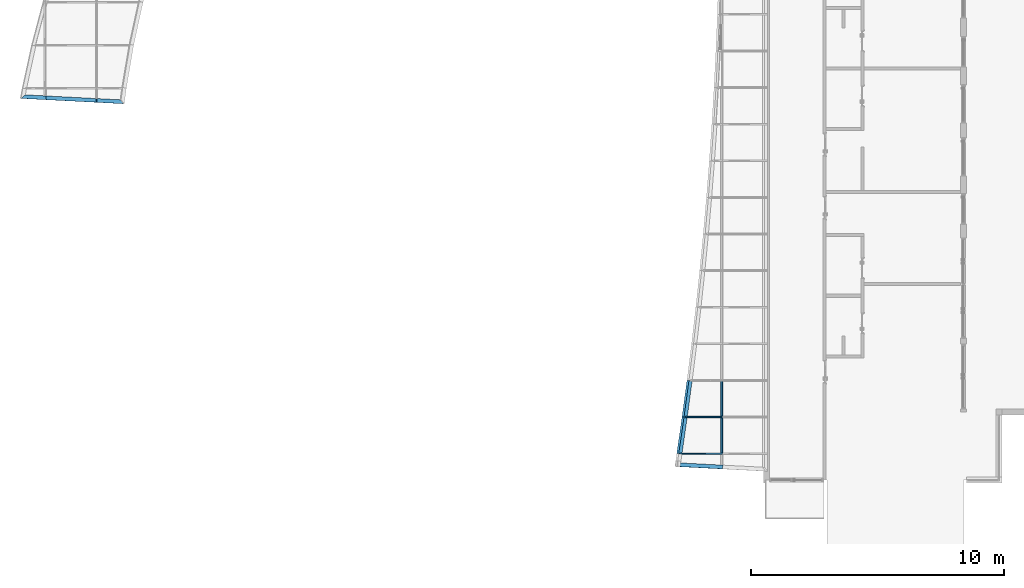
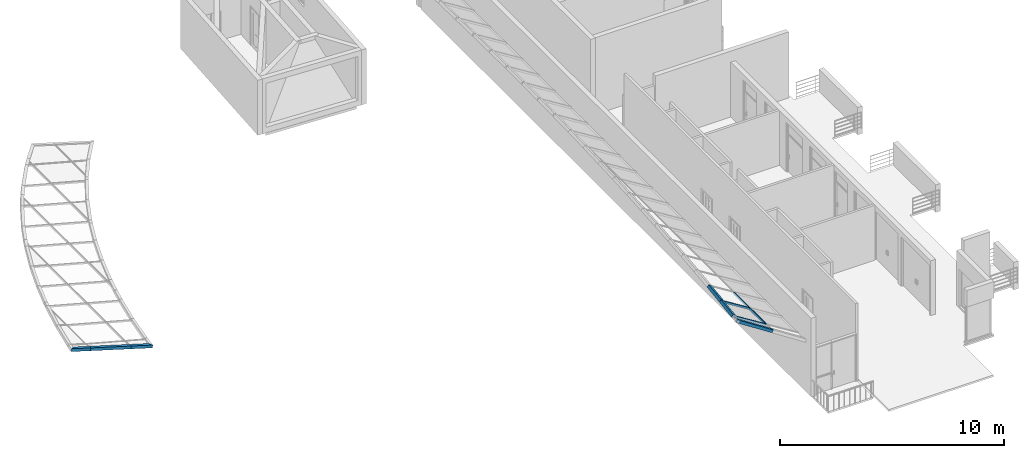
# One storey, part 1 of 33: 10 members, 2 elements without a shape of their own.
"""IFC2X3 building model written with IfcOpenShell, lengths in millimetres."""

from ifc_helpers import new_model, entity, si_unit, converted_unit, derived_unit, direction, frame, frame_2d, origin, origin_2d_with_axis, place, context, subcontext, project, spatial, polyline, rectangle, extrude, clip, halfspace, bounded_halfspace, source, transform, mapped, material, type_object, type_shapes, element, aggregate, save


model = new_model("IFC2X3")

# Units and contexts
model_context = context("Model", 3, precision=0.01, world=origin(), true_north=direction((6.12303176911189e-17, 1.0)))
body_context = subcontext(model_context, "Body", "Model", "MODEL_VIEW")
ifc_project = project(units=[si_unit("LENGTHUNIT", "METRE", prefix="MILLI"), si_unit("AREAUNIT", "SQUARE_METRE"), si_unit("VOLUMEUNIT", "CUBIC_METRE"), converted_unit("PLANEANGLEUNIT", "DEGREE", entity("IfcRatioMeasure", 0.0174532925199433), si_unit("PLANEANGLEUNIT", "RADIAN"), dimensions=[0, 0, 0, 0, 0, 0, 0]), si_unit("MASSUNIT", "GRAM", prefix="KILO"), derived_unit("MASSDENSITYUNIT", [(si_unit("MASSUNIT", "GRAM", prefix="KILO"), 1), (si_unit("LENGTHUNIT", "METRE"), -3)]), si_unit("TIMEUNIT", "SECOND"), si_unit("FREQUENCYUNIT", "HERTZ"), si_unit("THERMODYNAMICTEMPERATUREUNIT", "DEGREE_CELSIUS"), derived_unit("THERMALTRANSMITTANCEUNIT", [(si_unit("MASSUNIT", "GRAM", prefix="KILO"), 1), (si_unit("THERMODYNAMICTEMPERATUREUNIT", "KELVIN"), -1), (si_unit("TIMEUNIT", "SECOND"), -3)]), derived_unit("VOLUMETRICFLOWRATEUNIT", [(si_unit("LENGTHUNIT", "METRE"), 3), (si_unit("TIMEUNIT", "SECOND"), -1)]), si_unit("ELECTRICCURRENTUNIT", "AMPERE"), si_unit("ELECTRICVOLTAGEUNIT", "VOLT"), si_unit("POWERUNIT", "WATT"), si_unit("FORCEUNIT", "NEWTON", prefix="KILO"), si_unit("ILLUMINANCEUNIT", "LUX"), si_unit("LUMINOUSFLUXUNIT", "LUMEN"), si_unit("LUMINOUSINTENSITYUNIT", "CANDELA"), derived_unit("USERDEFINED", [(si_unit("MASSUNIT", "GRAM", prefix="KILO"), -1), (si_unit("LENGTHUNIT", "METRE"), -2), (si_unit("TIMEUNIT", "SECOND"), 3), (si_unit("LUMINOUSFLUXUNIT", "LUMEN"), 1)]), derived_unit("LINEARVELOCITYUNIT", [(si_unit("LENGTHUNIT", "METRE"), 1), (si_unit("TIMEUNIT", "SECOND"), -1)]), si_unit("PRESSUREUNIT", "PASCAL"), derived_unit("USERDEFINED", [(si_unit("LENGTHUNIT", "METRE"), -2), (si_unit("MASSUNIT", "GRAM", prefix="KILO"), 1), (si_unit("TIMEUNIT", "SECOND"), -2)])], contexts=[model_context])

# Site, building, storey
site_placement = place(None, origin())
site = spatial("IfcSite", under=ifc_project, at=site_placement, Name="表面", CompositionType="ELEMENT")
building_placement = place(site_placement, origin())
building = spatial("IfcBuilding", under=site, at=building_placement, CompositionType="ELEMENT")
storey_placement = place(building_placement, frame((0.0, 0.0, 6000.0)))
storey = spatial("IfcBuildingStorey", under=building, at=storey_placement, Name="3F", CompositionType="ELEMENT", Elevation=6000.00000000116)

# Curtain wall, members
curtain_wall_type_1 = type_object("IfcCurtainWallType", Name="幕墙系统:1450 x 2100mm", PredefinedType="NOTDEFINED")
curtain_wall_1_placement = place(storey_placement, frame((0.0, 0.0, -6000.0)))
curtain_wall_1 = element("IfcCurtainWall", 1, at=curtain_wall_1_placement, inside=storey, type_object=curtain_wall_type_1, Name="幕墙系统:1450 x 2100mm", ObjectType="幕墙系统:1450 x 2100mm")
ifc_material_1 = material(Name="金属 - 铝")
member_type_1 = type_object("IfcMemberType", Name="50 x 100mm", PredefinedType="MEMBER")
shared_shape_1 = source(origin(), body_context, "Body", "SweptSolid", [
    extrude(rectangle(XDim=100.0, YDim=50.0, at=origin_2d_with_axis()), frame((0.0, 0.0, -1400.0), z_axis=(0.0, 0.0, 1.0), x_axis=(0.0, -1.0, 0.0)), (0.0, 0.0, 1.0), 1400.0),
])
type_shapes(member_type_1, [shared_shape_1])
placement = place(building_placement, frame((0.0, 0.0, 9000.0)))
member_1_placement = place(placement, frame((-16211.1509145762, -25495.8979069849, 826.048296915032), z_axis=(0.0, 1.0, 0.0), x_axis=(-0.848048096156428, 0.0, 0.529919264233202)))
member_1 = element("IfcMember", 2, at=member_1_placement, type_object=member_type_1, material=ifc_material_1, Name="矩形竖梃:50 x 100mm", ObjectType="50 x 100mm", context=body_context, shape_type="MappedRepresentation", body=[
    mapped(shared_shape_1, transform((0.0, 0.0, 0.0), scale=1.0)),
])
member_2_placement = place(placement, frame((-16211.1509145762, -26945.8979069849, 826.048296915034), z_axis=(0.0, 1.0, 0.0), x_axis=(-0.848048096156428, 0.0, 0.529919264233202)))
member_2 = element("IfcMember", 3, at=member_2_placement, type_object=member_type_1, material=ifc_material_1, Name="矩形竖梃:50 x 100mm", ObjectType="50 x 100mm", context=body_context, shape_type="MappedRepresentation", body=[
    mapped(shared_shape_1, transform((0.0, 0.0, 0.0), scale=1.0)),
])

curtain_wall_type_2 = type_object("IfcCurtainWallType", Name="幕墙系统:1700 x 2100mm", PredefinedType="NOTDEFINED")
curtain_wall_2_placement = place(storey_placement, frame((0.0, 0.0, -6000.0)))
curtain_wall_2 = element("IfcCurtainWall", 4, at=curtain_wall_2_placement, inside=storey, type_object=curtain_wall_type_2, Name="幕墙系统:1700 x 2100mm", ObjectType="幕墙系统:1700 x 2100mm")
ifc_material_2 = material(Name="木质 - 木材")
member_type_2 = type_object("IfcMemberType", Name="200 x 150mm", PredefinedType="MEMBER")
shared_shape_2 = source(origin(), body_context, "Body", "Clipping", [
    clip(extrude(rectangle(XDim=150.0, YDim=150.0, at=origin_2d_with_axis()), frame((-75.0, 0.0, -1018.00402169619), z_axis=(0.0, 0.0, 1.0), x_axis=(0.0, -1.0, 0.0)), (0.0, 0.0, 1.0), 1018.00402169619), halfspace(frame((0.0, -304.8, 0.0), z_axis=(-0.755376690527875, 0.0, 0.655290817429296), x_axis=(-0.655290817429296, 0.0, -0.755376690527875)), False)),
])
type_shapes(member_type_2, [shared_shape_2])
member_3_placement = place(placement, frame((-43977.9506808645, -14300.2240793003, 619.683146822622), z_axis=(-0.964690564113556, 0.0505572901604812, 0.25848805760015), x_axis=(-0.0488345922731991, -0.99872116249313, 0.0130851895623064)))
member_3 = element("IfcMember", 5, at=member_3_placement, type_object=member_type_2, material=ifc_material_2, Name="矩形竖梃:200 x 150mm", ObjectType="200 x 150mm", context=body_context, shape_type="MappedRepresentation", body=[
    mapped(shared_shape_2, transform((0.0, 0.0, 0.0), scale=1.0)),
])
member_type_3 = type_object("IfcMemberType", Name="200 x 150mm", PredefinedType="MEMBER")
shared_shape_3 = source(origin(), body_context, "Body", "Clipping", [
    clip(extrude(rectangle(XDim=150.0, YDim=150.0, at=origin_2d_with_axis()), frame((-75.0, 0.0, -1117.98957868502), z_axis=(0.0, 0.0, 1.0), x_axis=(0.0, -1.0, 0.0)), (0.0, 0.0, 1.0), 1117.98957868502), halfspace(frame((0.0, -304.8, -1117.98957868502), z_axis=(-0.674165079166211, 0.0, -0.738580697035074), x_axis=(-0.738580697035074, 0.0, 0.674165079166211)), False)),
])
type_shapes(member_type_3, [shared_shape_3])
member_4_placement = place(storey_placement, frame((-40967.4475716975, -14457.9978617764, 2813.02126990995), z_axis=(-0.964690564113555, 0.0505572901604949, 0.258488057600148), x_axis=(-0.0488345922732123, -0.998721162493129, 0.0130851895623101)))
member_4 = element("IfcMember", 6, at=member_4_placement, type_object=member_type_3, material=ifc_material_2, Name="矩形竖梃:200 x 150mm", ObjectType="200 x 150mm", context=body_context, shape_type="MappedRepresentation", body=[
    mapped(shared_shape_3, transform((0.0, 0.0, 0.0), scale=1.0)),
])
member_type_4 = type_object("IfcMemberType", Name="200 x 150mm", PredefinedType="MEMBER")
shared_shape_4 = source(origin(), body_context, "Body", "SweptSolid", [
    extrude(rectangle(XDim=150.0, YDim=150.0, at=frame_2d((0.0, -1.4210854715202e-14), x_axis=(1.0, 0.0))), frame((-75.0, 0.0, -2102.68899755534), z_axis=(0.0, 0.0, 1.0), x_axis=(0.0, -1.0, 0.0)), (0.0, 0.0, 1.0), 2102.68899755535),
])
type_shapes(member_type_4, [shared_shape_4])
member_5_placement = place(storey_placement, frame((-42995.8918069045, -14351.6916040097, 3356.54126462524), z_axis=(-0.964690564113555, 0.0505572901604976, 0.25848805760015), x_axis=(-0.0488345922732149, -0.998721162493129, 0.0130851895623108)))
member_5 = element("IfcMember", 7, at=member_5_placement, type_object=member_type_4, material=ifc_material_2, Name="矩形竖梃:200 x 150mm", ObjectType="200 x 150mm", context=body_context, shape_type="MappedRepresentation", body=[
    mapped(shared_shape_4, transform((0.0, 0.0, 0.0), scale=1.0)),
])
aggregate(curtain_wall_2, [member_3, member_4, member_5])

# Member
member_type_5 = type_object("IfcMemberType", Name="200 x 150mm", PredefinedType="MEMBER")
shared_shape_5 = source(origin(), body_context, "Body", "Clipping", [
    clip(clip(extrude(rectangle(XDim=150.0, YDim=150.0, at=frame_2d((0.0, 1.4210854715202e-14), x_axis=(1.0, 0.0))), frame((-75.0, 0.0, -1468.92622414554), z_axis=(0.0, 0.0, 1.0), x_axis=(0.0, -1.0, 0.0)), (0.0, 0.0, 1.0), 1469.74123743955), halfspace(frame((0.0, 304.8, -1468.11096840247), z_axis=(0.00543495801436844, 0.0, -0.999985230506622), x_axis=(0.999985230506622, 0.0, 0.00543495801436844)), False)), halfspace(frame((0.0, 304.8, 0.0), z_axis=(0.00543334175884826, 0.0, 0.999985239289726), x_axis=(0.999985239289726, 0.0, -0.00543334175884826)), False)),
])
type_shapes(member_type_5, [shared_shape_5])
member_6_placement = place(placement, frame((-17546.2455269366, -25470.8979069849, 1660.30800207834), z_axis=(0.132795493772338, 0.987663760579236, -0.0829798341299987), x_axis=(-0.837586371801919, 0.156589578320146, 0.523382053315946)))
member_6 = element("IfcMember", 8, at=member_6_placement, type_object=member_type_5, material=ifc_material_2, Name="矩形竖梃:200 x 150mm", ObjectType="200 x 150mm", context=body_context, shape_type="MappedRepresentation", body=[
    mapped(shared_shape_5, transform((0.0, 0.0, 0.0), scale=1.0)),
])

member_type_6 = type_object("IfcMemberType", Name="200 x 150mm", PredefinedType="MEMBER")
shared_shape_6 = source(origin(), body_context, "Body", "Clipping", [
    clip(clip(extrude(rectangle(XDim=150.0, YDim=150.0, at=frame_2d((0.0, -1.4210854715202e-14), x_axis=(1.0, 0.0))), frame((-75.0, 0.0, -1471.21929119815), z_axis=(0.0, 0.0, 1.0), x_axis=(0.0, -1.0, 0.0)), (0.0, 0.0, 1.0), 1472.03454694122), halfspace(frame((0.0, 304.8, -1470.73244253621), z_axis=(0.0032456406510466, 0.0, -0.999994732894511), x_axis=(0.999994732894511, 0.0, 0.0032456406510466)), False)), halfspace(frame((0.0, 304.8, 0.0), z_axis=(0.00543495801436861, 0.0, 0.999985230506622), x_axis=(0.999985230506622, 0.0, -0.00543495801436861)), False)),
])
type_shapes(member_type_6, [shared_shape_6])
member_7_placement = place(placement, frame((-17741.2040478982, -26920.8979069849, 1782.13160672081), z_axis=(0.141892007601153, 0.985903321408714, -0.088663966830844), x_axis=(-0.836093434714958, 0.167315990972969, 0.522449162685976)))
member_7 = element("IfcMember", 9, at=member_7_placement, type_object=member_type_6, material=ifc_material_2, Name="矩形竖梃:200 x 150mm", ObjectType="200 x 150mm", context=body_context, shape_type="MappedRepresentation", body=[
    mapped(shared_shape_6, transform((0.0, 0.0, 0.0), scale=1.0)),
])

member_type_7 = type_object("IfcMemberType", Name="200 x 150mm", PredefinedType="MEMBER")
shared_shape_7 = source(origin(), body_context, "Body", "Clipping", [
    clip(extrude(rectangle(XDim=150.0, YDim=150.0, at=frame_2d((0.0, -1.4210854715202e-14), x_axis=(1.0, 0.0))), frame((-75.0, 0.0, -2102.07303900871), z_axis=(0.0, 0.0, 1.0), x_axis=(0.0, -1.0, 0.0)), (0.0, 0.0, 1.0), 2127.09771804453), halfspace(frame((-75.0, 0.0, 3.33332380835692), z_axis=(-0.277831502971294, 0.0, 0.960629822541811), x_axis=(0.960629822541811, 0.0, 0.277831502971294)), False)),
])
type_shapes(member_type_7, [shared_shape_7])
member_8_placement = place(placement, frame((-17992.0519165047, -28880.2022933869, 1938.87875180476), z_axis=(-0.847211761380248, 0.0444004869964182, 0.529396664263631), x_axis=(-0.0376537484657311, -0.999013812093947, 0.0235286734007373)))
member_8 = element("IfcMember", 10, at=member_8_placement, type_object=member_type_7, material=ifc_material_2, Name="矩形竖梃:200 x 150mm", ObjectType="200 x 150mm", context=body_context, shape_type="MappedRepresentation", body=[
    mapped(shared_shape_7, transform((0.0, 0.0, 0.0), scale=1.0)),
])

member_type_8 = type_object("IfcMemberType", Name="50 x 100mm", PredefinedType="MEMBER")
shared_shape_8 = source(origin(), body_context, "Body", "Clipping", [
    clip(clip(extrude(rectangle(XDim=100.0, YDim=50.0, at=origin_2d_with_axis()), frame((0.0, 0.0, -1804.20561080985), z_axis=(0.0, 0.0, 1.0), x_axis=(0.0, -1.0, 0.0)), (0.0, 0.0, 1.0), 1656.3035832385), bounded_halfspace(frame((24.2936353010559, 75.0, -148.021903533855), z_axis=(-0.167315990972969, 0.0, 0.985903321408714), x_axis=(0.985903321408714, 0.0, 0.167315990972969)), False, frame((0.0, 0.0, -1804.20561080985), z_axis=(0.0, 0.0, 1.0), x_axis=(0.0, -1.0, 0.0)), polyline([(-50.0, 25.0), (-50.0, 24.2936353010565), (50.0, 24.2936353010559), (50.0, 25.0), (-50.0, 25.0)]))), bounded_halfspace(frame((-1426.51156325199, 75.0, -378.040441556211), z_axis=(-0.156589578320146, 0.0, 0.987663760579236), x_axis=(0.987663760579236, 0.0, 0.156589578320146)), False, frame((0.0, 0.0, -1804.20561080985), z_axis=(0.0, 0.0, 1.0), x_axis=(0.0, -1.0, 0.0)), polyline([(-50.0, 24.2936353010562), (-50.0, -25.0), (50.0, -25.0), (50.0, 24.2936353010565), (-50.0, 24.2936353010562)]))),
])
type_shapes(member_type_8, [shared_shape_8])
member_9_placement = place(placement, frame((-17741.2040478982, -26920.8979069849, 1782.13160672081), z_axis=(-0.848048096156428, 0.0, 0.529919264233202), x_axis=(0.0, -1.0, 0.0)))
member_9 = element("IfcMember", 11, at=member_9_placement, type_object=member_type_8, material=ifc_material_1, Name="矩形竖梃:50 x 100mm", ObjectType="50 x 100mm", context=body_context, shape_type="MappedRepresentation", body=[
    mapped(shared_shape_8, transform((0.0, 0.0, 0.0), scale=1.0)),
])

member_type_9 = type_object("IfcMemberType", Name="50 x 100mm", PredefinedType="MEMBER")
shared_shape_9 = source(origin(), body_context, "Body", "Clipping", [
    clip(extrude(rectangle(XDim=100.0, YDim=50.0, at=origin_2d_with_axis()), frame((0.0, 0.0, -2050.2826668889), z_axis=(0.0, 0.0, 1.0), x_axis=(0.0, -1.0, 0.0)), (0.0, 0.0, 1.0), 1902.38063931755), halfspace(frame((-1424.90260135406, 75.0, -393.962554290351), z_axis=(-0.167315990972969, 0.0, 0.985903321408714), x_axis=(0.985903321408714, 0.0, 0.167315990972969)), False)),
])
type_shapes(member_type_9, [shared_shape_9])
member_10_placement = place(placement, frame((-17949.8892268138, -28370.8979069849, 1912.53257922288), z_axis=(-0.848048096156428, 0.0, 0.529919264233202), x_axis=(0.0, -1.0, 0.0)))
member_10 = element("IfcMember", 12, at=member_10_placement, type_object=member_type_9, material=ifc_material_1, Name="矩形竖梃:50 x 100mm", ObjectType="50 x 100mm", context=body_context, shape_type="MappedRepresentation", body=[
    mapped(shared_shape_9, transform((0.0, 0.0, 0.0), scale=1.0)),
])

aggregate(curtain_wall_1, [member_6, member_7, member_8, member_1, member_2, member_9, member_10])

save(model, "model.ifc")
